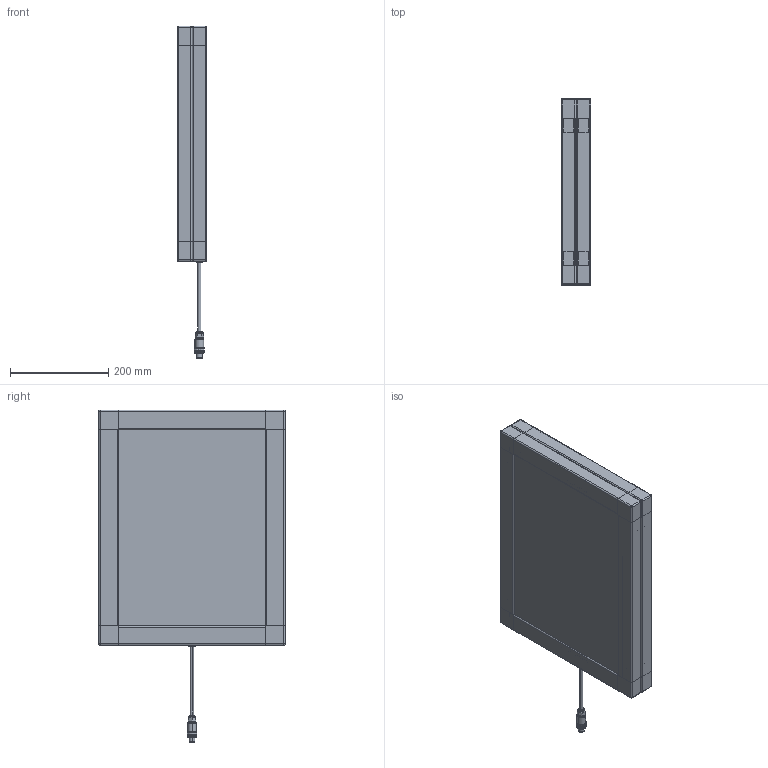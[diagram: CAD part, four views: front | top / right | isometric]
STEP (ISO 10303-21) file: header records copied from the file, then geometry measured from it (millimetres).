
FILE_DESCRIPTION (( 'STEP AP214' ), '1' );
FILE_NAME ('LBACK 400x300.STEP', '2012-08-13T07:31:03', ( ' ' ), ( '' ), 'SwSTEP 2.0', 'SolidWorks 2009', '' );
FILE_SCHEMA (( 'AUTOMOTIVE_DESIGN' ));
Length unit declared in the file: millimetre
Products named in the file (1): LBACK 400x300
Bounding box: 60 x 380 x 677.5 mm (x, y, z)
Volume: 2274397.5 mm3; surface area: 1447936.2 mm2
Topology: 25 solids, 25 shells, 1563 faces, 3954 edges, 2492 vertices
Faces by surface type: plane 1126, cylinder 397, sphere 16, cone 14, torus 10
Entity records: 63442 total; most frequent: CARTESIAN_POINT 9496, ORIENTED_EDGE 7876, DIRECTION 7404, EDGE_CURVE 3938, VECTOR 2632, LINE 2632, VERTEX_POINT 2492, AXIS2_PLACEMENT_3D 2386
